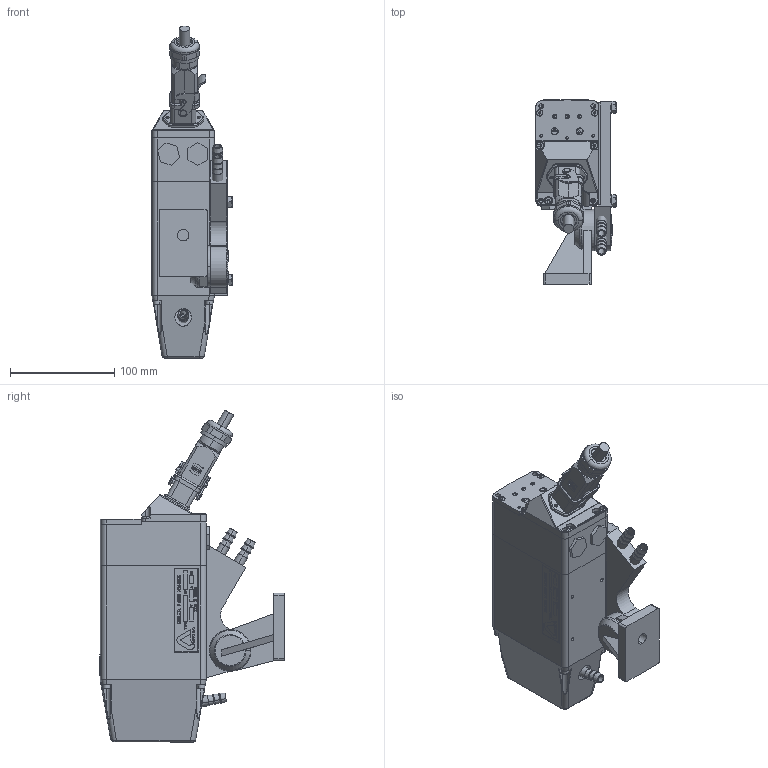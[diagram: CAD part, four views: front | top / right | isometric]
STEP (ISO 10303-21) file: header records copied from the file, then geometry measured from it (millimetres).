
FILE_DESCRIPTION (( 'STEP AP203' ), '1' );
FILE_NAME ('B20641_1_VFT1_JC_Mechanical_Dimensions.STEP', '2018-06-19T09:22:18', ( '' ), ( '' ), 'SwSTEP 2.0', 'SolidWorks 2014', '' );
FILE_SCHEMA (( 'CONFIG_CONTROL_DESIGN' ));
Length unit declared in the file: millimetre
Products named in the file (1): B20641_1_VFT1_JC_Mechanical_Dimensions
Bounding box: 77.01 x 177.3 x 319.16 mm (x, y, z)
Volume: 757286.7 mm3; surface area: 288798.5 mm2
Topology: 52 solids, 54 shells, 2692 faces, 6624 edges, 4137 vertices
Faces by surface type: plane 1367, cylinder 713, cone 237, bspline 208, torus 164, sphere 3
Entity records: 86361 total; most frequent: CARTESIAN_POINT 23836, ORIENTED_EDGE 13018, DIRECTION 12606, EDGE_CURVE 6509, AXIS2_PLACEMENT_3D 4301, VERTEX_POINT 4131, VECTOR 4004, LINE 4004
